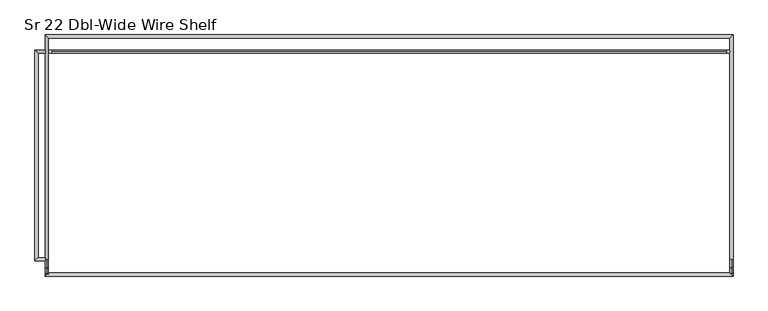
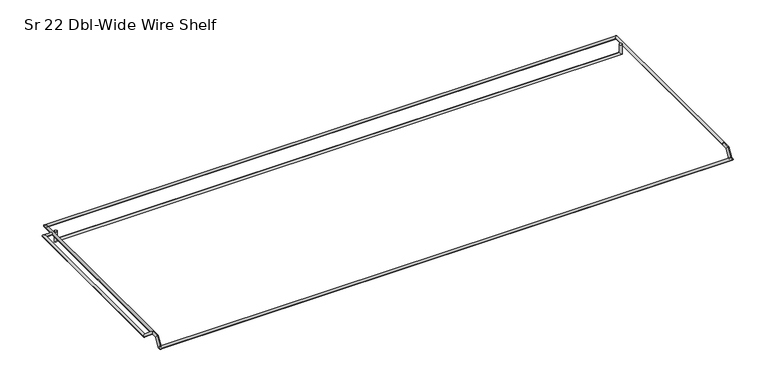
"""IFC4 building model written with IfcOpenShell, lengths in millimetres: furniture geometry, HermanMiller_Carts_CT521_CartShelf : Sr 22 Dbl-Wide Wire Shelf."""

from ifc_helpers import new_model, si_unit, frame, origin, place, context, project, spatial, circle_curve, ellipse_curve, source, transform, mapped, element, save
from ifc_brep_helpers import plane_surface, cylinder_surface, advanced_brep


def sr_22_dbl_wide_wire_shelf_4a5e91f4(model_context):
    return source(origin(), model_context, "Body", "AdvancedBrep", [
        advanced_brep(
        [(733.4732983, 136.525, 2244.7377), (738.2357983, 136.525, 2244.7377), (733.4732983, 136.525, 2229.4596), (738.2357983, 136.525, 2224.6971), (-295.1886017, 136.525, 2229.4596), (-299.9511017, 136.525, 2224.6971), (-295.1886017, 136.525, 2244.7377), (-299.9511017, 136.525, 2244.7377)],
        [
            (0, 1, circle_curve(frame((735.8545483, 136.525, 2244.7377), z_axis=(0.0, 0.0, 1.0), x_axis=(1.0, 0.0, 0.0)), 2.38125)),
            (1, 0, circle_curve(frame((735.8545483, 136.525, 2244.7377), z_axis=(0.0, 0.0, 1.0), x_axis=(1.0, 0.0, 0.0)), 2.38125)),
            (0, 2),
            (2, 3, ellipse_curve(frame((735.8545483, 136.525, 2227.07835), z_axis=(0.7071067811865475, 0.0, 0.7071067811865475), x_axis=(-0.7071067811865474, 0.0, 0.7071067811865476)), 3.367596, 2.38125)),
            (3, 1),
            (3, 2, ellipse_curve(frame((735.8545483, 136.525, 2227.07835), z_axis=(0.7071067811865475, 0.0, 0.7071067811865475), x_axis=(-0.7071067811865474, 0.0, 0.7071067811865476)), 3.367596, 2.38125)),
            (2, 4),
            (4, 5, ellipse_curve(frame((-297.5698517, 136.525, 2227.07835), z_axis=(0.7071067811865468, 0.0, -0.7071067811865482), x_axis=(0.7071067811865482, 0.0, 0.7071067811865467)), 3.367596, 2.38125)),
            (5, 3),
            (5, 4, ellipse_curve(frame((-297.5698517, 136.525, 2227.07835), z_axis=(0.7071067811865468, 0.0, -0.7071067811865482), x_axis=(0.7071067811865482, 0.0, 0.7071067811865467)), 3.367596, 2.38125)),
            (6, 7, circle_curve(frame((-297.5698517, 136.525, 2244.7377), z_axis=(0.0, 0.0, 1.0), x_axis=(-1.0, 0.0, 0.0)), 2.38125)),
            (7, 6, circle_curve(frame((-297.5698517, 136.525, 2244.7377), z_axis=(0.0, 0.0, 1.0), x_axis=(-1.0, 0.0, 0.0)), 2.38125)),
            (4, 6),
            (7, 5),
        ],
        [
            plane_surface(frame((735.8545483, 136.525, 2244.7377), z_axis=(0.0, 0.0, 1.0), x_axis=(0.0, -1.0, 0.0))),
            cylinder_surface(frame((735.8545483, 136.525, 2244.7377), z_axis=(0.0, 0.0, 1.0), x_axis=(1.0, 0.0, 0.0)), 2.38125),
            cylinder_surface(frame((735.8545483, 136.525, 2227.07835), z_axis=(1.0, 0.0, 0.0), x_axis=(0.0, 0.0, -1.0)), 2.38125),
            plane_surface(frame((-297.5698517, 136.525, 2244.7377), z_axis=(0.0, 0.0, 1.0), x_axis=(0.0, -1.0, 0.0))),
            cylinder_surface(frame((-297.5698517, 136.525, 2227.07835), z_axis=(0.0, 0.0, -1.0), x_axis=(-1.0, 0.0, 0.0)), 2.38125),
        ],
        [
            (0, [[1, 2]]),
            (1, [[-1, 3, 4, 5]]),
            (1, [[-2, -5, 6, -3]]),
            (2, [[-4, 7, 8, 9]]),
            (2, [[-6, -9, 10, -7]]),
            (3, [[11, 12]]),
            (4, [[-8, 13, -12, 14]]),
            (4, [[-10, -14, -11, -13]]),
        ],
    ),
        advanced_brep(
        [(-305.0526917, -178.26736, 2242.3501), (-305.0526917, -183.04256, 2242.3501), (-305.0526917, 133.81736, 2242.3501), (-305.0526917, 138.59256, 2242.3501), (-316.1524917, -178.26736, 2242.3501), (-320.9276917, -183.04256, 2242.3501), (-316.1524917, 133.81736, 2242.3501), (-320.9276917, 138.59256, 2242.3501)],
        [
            (0, 1, circle_curve(frame((-305.0526917, -180.65496, 2242.3501), z_axis=(1.0, 0.0, 0.0), x_axis=(0.0, -1.0, 0.0)), 2.3876)),
            (1, 0, circle_curve(frame((-305.0526917, -180.65496, 2242.3501), z_axis=(1.0, 0.0, 0.0), x_axis=(0.0, -1.0, 0.0)), 2.3876)),
            (2, 3, circle_curve(frame((-305.0526917, 136.20496, 2242.3501), z_axis=(1.0, 0.0, 0.0), x_axis=(0.0, 1.0, 0.0)), 2.3876)),
            (3, 2, circle_curve(frame((-305.0526917, 136.20496, 2242.3501), z_axis=(1.0, 0.0, 0.0), x_axis=(0.0, 1.0, 0.0)), 2.3876)),
            (0, 4),
            (4, 5, ellipse_curve(frame((-318.5400917, -180.65496, 2242.3501), z_axis=(0.7071067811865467, -0.7071067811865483, 0.0), x_axis=(0.7071067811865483, 0.7071067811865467, 0.0)), 3.3765763, 2.3876)),
            (5, 1),
            (5, 4, ellipse_curve(frame((-318.5400917, -180.65496, 2242.3501), z_axis=(0.7071067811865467, -0.7071067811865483, 0.0), x_axis=(0.7071067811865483, 0.7071067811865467, 0.0)), 3.3765763, 2.3876)),
            (4, 6),
            (6, 7, ellipse_curve(frame((-318.5400917, 136.20496, 2242.3501), z_axis=(-0.7071067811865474, -0.7071067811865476, 0.0), x_axis=(0.7071067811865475, -0.7071067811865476, 0.0)), 3.3765763, 2.3876)),
            (7, 5),
            (7, 6, ellipse_curve(frame((-318.5400917, 136.20496, 2242.3501), z_axis=(-0.7071067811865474, -0.7071067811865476, 0.0), x_axis=(0.7071067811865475, -0.7071067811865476, 0.0)), 3.3765763, 2.3876)),
            (6, 2),
            (3, 7),
        ],
        [
            plane_surface(frame((-305.0526917, -180.65496, 2242.3501), z_axis=(1.0, 0.0, 0.0), x_axis=(0.0, 0.0, 1.0))),
            plane_surface(frame((-305.0526917, 136.20496, 2242.3501), z_axis=(1.0, 0.0, 0.0), x_axis=(0.0, 0.0, 1.0))),
            cylinder_surface(frame((-305.0526917, -180.65496, 2242.3501), z_axis=(1.0, 0.0, 0.0), x_axis=(0.0, -1.0, 0.0)), 2.3876),
            cylinder_surface(frame((-318.5400917, -180.65496, 2242.3501), z_axis=(0.0, -1.0, 0.0), x_axis=(-1.0, 0.0, 0.0)), 2.3876),
            cylinder_surface(frame((-318.5400917, 136.20496, 2242.3501), z_axis=(-1.0, 0.0, 0.0), x_axis=(0.0, 1.0, 0.0)), 2.3876),
        ],
        [
            (0, [[1, 2]]),
            (1, [[3, 4]]),
            (2, [[-1, 5, 6, 7]]),
            (2, [[-2, -7, 8, -5]]),
            (3, [[-6, 9, 10, 11]]),
            (3, [[-8, -11, 12, -9]]),
            (4, [[-10, 13, -4, 14]]),
            (4, [[-12, -14, -3, -13]]),
        ],
    ),
        advanced_brep(
        [(738.5621883, -201.5998, 2227.0847), (743.3373883, -201.5998, 2227.0847), (743.3373883, -206.375, 2227.0847), (-300.2774917, -201.5998, 2227.0847), (-305.0526917, -206.375, 2227.0847), (-305.0526917, -201.5998, 2227.0847)],
        [
            (0, 1, circle_curve(frame((740.9497883, -201.5998, 2227.0847), z_axis=(0.0, 1.0, 0.0), x_axis=(1.0, 0.0, 0.0)), 2.3876)),
            (1, 0, circle_curve(frame((740.9497883, -201.5998, 2227.0847), z_axis=(0.0, 1.0, 0.0), x_axis=(1.0, 0.0, 0.0)), 2.3876)),
            (0, 2, ellipse_curve(frame((740.9497883, -203.9874, 2227.0847), z_axis=(0.7071067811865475, 0.7071067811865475, 0.0), x_axis=(-0.7071067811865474, 0.7071067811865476, 0.0)), 3.3765763, 2.3876)),
            (2, 1),
            (2, 0, ellipse_curve(frame((740.9497883, -203.9874, 2227.0847), z_axis=(0.7071067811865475, 0.7071067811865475, 0.0), x_axis=(-0.7071067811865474, 0.7071067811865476, 0.0)), 3.3765763, 2.3876)),
            (0, 3),
            (3, 4, ellipse_curve(frame((-302.6650917, -203.9874, 2227.0847), z_axis=(0.7071067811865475, -0.7071067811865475, 0.0), x_axis=(0.7071067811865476, 0.7071067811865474, 0.0)), 3.3765763, 2.3876)),
            (4, 2),
            (4, 3, ellipse_curve(frame((-302.6650917, -203.9874, 2227.0847), z_axis=(0.7071067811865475, -0.7071067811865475, 0.0), x_axis=(0.7071067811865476, 0.7071067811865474, 0.0)), 3.3765763, 2.3876)),
            (3, 5, circle_curve(frame((-302.6650917, -201.5998, 2227.0847), z_axis=(0.0, 1.0, 0.0), x_axis=(-1.0, 0.0, 0.0)), 2.3876)),
            (5, 3, circle_curve(frame((-302.6650917, -201.5998, 2227.0847), z_axis=(0.0, 1.0, 0.0), x_axis=(-1.0, 0.0, 0.0)), 2.3876)),
            (5, 4),
        ],
        [
            plane_surface(frame((740.9497883, -201.5998, 2227.0847), z_axis=(0.0, 1.0, 0.0), x_axis=(0.0, 0.0, 1.0))),
            cylinder_surface(frame((740.9497883, -201.5998, 2227.0847), z_axis=(0.0, 1.0, 0.0), x_axis=(1.0, 0.0, 0.0)), 2.3876),
            cylinder_surface(frame((740.9497883, -203.9874, 2227.0847), z_axis=(1.0, 0.0, 0.0), x_axis=(0.0, -1.0, 0.0)), 2.3876),
            plane_surface(frame((-302.6650917, -201.5998, 2227.0847), z_axis=(0.0, 1.0, 0.0), x_axis=(0.0, 0.0, 1.0))),
            cylinder_surface(frame((-302.6650917, -203.9874, 2227.0847), z_axis=(0.0, -1.0, 0.0), x_axis=(-1.0, 0.0, 0.0)), 2.3876),
        ],
        [
            (0, [[1, 2]]),
            (1, [[-1, 3, 4]]),
            (1, [[-2, -4, 5]]),
            (2, [[-3, 6, 7, 8]]),
            (2, [[-5, -8, 9, -6]]),
            (3, [[10, 11]]),
            (4, [[-7, -11, 12]]),
            (4, [[-9, -12, -10]]),
        ],
    ),
        advanced_brep(
        [(743.3373883, -180.65496, 2242.3501), (738.5621883, -180.65496, 2242.3501), (743.3373883, 161.925, 2242.3501), (738.5621883, 157.1498, 2242.3501), (-305.0526917, 161.925, 2242.3501), (-300.2774917, 157.1498, 2242.3501), (-305.0526917, -180.65496, 2242.3501), (-300.2774917, -180.65496, 2242.3501)],
        [
            (0, 1, circle_curve(frame((740.9497883, -180.65496, 2242.3501), z_axis=(0.0, -1.0, 0.0), x_axis=(-1.0, 0.0, 0.0)), 2.3876)),
            (1, 0, circle_curve(frame((740.9497883, -180.65496, 2242.3501), z_axis=(0.0, -1.0, 0.0), x_axis=(-1.0, 0.0, 0.0)), 2.3876)),
            (0, 2),
            (2, 3, ellipse_curve(frame((740.9497883, 159.5374, 2242.3501), z_axis=(0.7071067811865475, -0.7071067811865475, 0.0), x_axis=(-0.7071067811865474, -0.7071067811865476, 0.0)), 3.3765763, 2.3876)),
            (3, 1),
            (3, 2, ellipse_curve(frame((740.9497883, 159.5374, 2242.3501), z_axis=(0.7071067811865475, -0.7071067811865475, 0.0), x_axis=(-0.7071067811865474, -0.7071067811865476, 0.0)), 3.3765763, 2.3876)),
            (2, 4),
            (4, 5, ellipse_curve(frame((-302.6650917, 159.5374, 2242.3501), z_axis=(0.7071067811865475, 0.7071067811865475, 0.0), x_axis=(0.7071067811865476, -0.7071067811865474, 0.0)), 3.3765763, 2.3876)),
            (5, 3),
            (5, 4, ellipse_curve(frame((-302.6650917, 159.5374, 2242.3501), z_axis=(0.7071067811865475, 0.7071067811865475, 0.0), x_axis=(0.7071067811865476, -0.7071067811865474, 0.0)), 3.3765763, 2.3876)),
            (6, 7, circle_curve(frame((-302.6650917, -180.65496, 2242.3501), z_axis=(0.0, -1.0, 0.0), x_axis=(1.0, 0.0, 0.0)), 2.3876)),
            (7, 6, circle_curve(frame((-302.6650917, -180.65496, 2242.3501), z_axis=(0.0, -1.0, 0.0), x_axis=(1.0, 0.0, 0.0)), 2.3876)),
            (4, 6),
            (7, 5),
        ],
        [
            plane_surface(frame((740.9497883, -180.65496, 2242.3501), z_axis=(0.0, -1.0, 0.0), x_axis=(0.0, 0.0, 1.0))),
            cylinder_surface(frame((740.9497883, -180.65496, 2242.3501), z_axis=(0.0, -1.0, 0.0), x_axis=(-1.0, 0.0, 0.0)), 2.3876),
            cylinder_surface(frame((740.9497883, 159.5374, 2242.3501), z_axis=(1.0, 0.0, 0.0), x_axis=(0.0, -1.0, 0.0)), 2.3876),
            plane_surface(frame((-302.6650917, -180.65496, 2242.3501), z_axis=(0.0, -1.0, 0.0), x_axis=(0.0, 0.0, 1.0))),
            cylinder_surface(frame((-302.6650917, 159.5374, 2242.3501), z_axis=(0.0, 1.0, 0.0), x_axis=(1.0, 0.0, 0.0)), 2.3876),
        ],
        [
            (0, [[1, 2]]),
            (1, [[-1, 3, 4, 5]]),
            (1, [[-2, -5, 6, -3]]),
            (2, [[-4, 7, 8, 9]]),
            (2, [[-6, -9, 10, -7]]),
            (3, [[11, 12]]),
            (4, [[-8, 13, -12, 14]]),
            (4, [[-10, -14, -11, -13]]),
        ],
    ),
        advanced_brep(
        [(740.9497883, -180.65496, 2244.7377), (740.9497883, -180.65496, 2239.9625), (740.9497883, -191.442659, 2239.9625), (740.9497883, -194.205541, 2244.7377), (740.9497883, -200.218359, 2224.6971), (740.9497883, -202.981241, 2229.4723), (740.9497883, -203.9874, 2229.4723), (740.9497883, -203.9874, 2224.6971)],
        [
            (0, 1, circle_curve(frame((740.9497883, -180.65496, 2242.3501), z_axis=(0.0, 1.0, 0.0), x_axis=(0.0, 0.0, -1.0)), 2.3876)),
            (1, 0, circle_curve(frame((740.9497883, -180.65496, 2242.3501), z_axis=(0.0, 1.0, 0.0), x_axis=(0.0, 0.0, -1.0)), 2.3876)),
            (1, 2),
            (2, 3, ellipse_curve(frame((740.9497883, -192.8241, 2242.3501), z_axis=(0.0, 0.8655604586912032, 0.500804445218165), x_axis=(0.0, 0.5008044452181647, -0.8655604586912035)), 2.7584439, 2.3876)),
            (3, 0),
            (3, 2, ellipse_curve(frame((740.9497883, -192.8241, 2242.3501), z_axis=(0.0, 0.8655604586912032, 0.500804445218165), x_axis=(0.0, 0.5008044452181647, -0.8655604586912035)), 2.7584439, 2.3876)),
            (2, 4),
            (4, 5, ellipse_curve(frame((740.9497883, -201.5998, 2227.0847), z_axis=(0.0, 0.8655604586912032, 0.500804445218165), x_axis=(0.0, -0.5008044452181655, 0.8655604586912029)), 2.7584439, 2.3876)),
            (5, 3),
            (5, 4, ellipse_curve(frame((740.9497883, -201.5998, 2227.0847), z_axis=(0.0, 0.8655604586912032, 0.500804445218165), x_axis=(0.0, -0.5008044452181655, 0.8655604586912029)), 2.7584439, 2.3876)),
            (6, 7, circle_curve(frame((740.9497883, -203.9874, 2227.0847), z_axis=(0.0, -1.0, 0.0), x_axis=(0.0, 0.0, -1.0)), 2.3876)),
            (7, 6, circle_curve(frame((740.9497883, -203.9874, 2227.0847), z_axis=(0.0, -1.0, 0.0), x_axis=(0.0, 0.0, -1.0)), 2.3876)),
            (4, 7),
            (6, 5),
        ],
        [
            plane_surface(frame((740.9497883, -180.65496, 2242.3501), z_axis=(0.0, 1.0, 0.0), x_axis=(1.0, 0.0, 0.0))),
            cylinder_surface(frame((740.9497883, -180.65496, 2242.3501), z_axis=(0.0, 1.0, 0.0), x_axis=(0.0, 0.0, -1.0)), 2.3876),
            cylinder_surface(frame((740.9497883, -192.8241, 2242.3501), z_axis=(0.0, 0.49838981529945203, 0.8669530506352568), x_axis=(0.0, 0.8669530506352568, -0.49838981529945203)), 2.3876),
            plane_surface(frame((740.9497883, -203.9874, 2227.0847), z_axis=(0.0, -1.0, 0.0), x_axis=(1.0, 0.0, 0.0))),
            cylinder_surface(frame((740.9497883, -201.5998, 2227.0847), z_axis=(0.0, 1.0, 0.0), x_axis=(0.0, 0.0, -1.0)), 2.3876),
        ],
        [
            (0, [[1, 2]]),
            (1, [[-2, 3, 4, 5]]),
            (1, [[-1, -5, 6, -3]]),
            (2, [[-4, 7, 8, 9]]),
            (2, [[-6, -9, 10, -7]]),
            (3, [[11, 12]]),
            (4, [[-8, 13, -11, 14]]),
            (4, [[-10, -14, -12, -13]]),
        ],
    ),
        advanced_brep(
        [(-302.6650917, -180.65496, 2239.9625), (-302.6650917, -180.65496, 2244.7377), (-302.6650917, -191.442659, 2239.9625), (-302.6650917, -194.205541, 2244.7377), (-302.6650917, -200.218359, 2224.6971), (-302.6650917, -202.981241, 2229.4723), (-302.6650917, -203.9874, 2224.6971), (-302.6650917, -203.9874, 2229.4723)],
        [
            (0, 1, circle_curve(frame((-302.6650917, -180.65496, 2242.3501), z_axis=(0.0, 1.0, 0.0), x_axis=(0.0, 0.0, 1.0)), 2.3876)),
            (1, 0, circle_curve(frame((-302.6650917, -180.65496, 2242.3501), z_axis=(0.0, 1.0, 0.0), x_axis=(0.0, 0.0, 1.0)), 2.3876)),
            (0, 2),
            (2, 3, ellipse_curve(frame((-302.6650917, -192.8241, 2242.3501), z_axis=(0.0, 0.865560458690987, 0.5008044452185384), x_axis=(0.0, 0.5008044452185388, -0.8655604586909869)), 2.7584439, 2.3876)),
            (3, 1),
            (3, 2, ellipse_curve(frame((-302.6650917, -192.8241, 2242.3501), z_axis=(0.0, 0.865560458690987, 0.5008044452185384), x_axis=(0.0, 0.5008044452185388, -0.8655604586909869)), 2.7584439, 2.3876)),
            (2, 4),
            (4, 5, ellipse_curve(frame((-302.6650917, -201.5998, 2227.0847), z_axis=(0.0, 0.865560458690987, 0.5008044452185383), x_axis=(0.0, -0.500804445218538, 0.8655604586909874)), 2.7584439, 2.3876)),
            (5, 3),
            (5, 4, ellipse_curve(frame((-302.6650917, -201.5998, 2227.0847), z_axis=(0.0, 0.865560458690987, 0.5008044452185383), x_axis=(0.0, -0.500804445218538, 0.8655604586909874)), 2.7584439, 2.3876)),
            (6, 7, circle_curve(frame((-302.6650917, -203.9874, 2227.0847), z_axis=(0.0, -1.0, 0.0), x_axis=(0.0, 0.0, 1.0)), 2.3876)),
            (7, 6, circle_curve(frame((-302.6650917, -203.9874, 2227.0847), z_axis=(0.0, -1.0, 0.0), x_axis=(0.0, 0.0, 1.0)), 2.3876)),
            (4, 6),
            (7, 5),
        ],
        [
            plane_surface(frame((-302.6650917, -180.65496, 2242.3501), z_axis=(0.0, 1.0, 0.0), x_axis=(-1.0, 0.0, 0.0))),
            cylinder_surface(frame((-302.6650917, -180.65496, 2242.3501), z_axis=(0.0, 1.0, 0.0), x_axis=(0.0, 0.0, 1.0)), 2.3876),
            cylinder_surface(frame((-302.6650917, -192.8241, 2242.3501), z_axis=(0.0, 0.49838981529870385, 0.8669530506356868), x_axis=(0.0, -0.8669530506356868, 0.49838981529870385)), 2.3876),
            plane_surface(frame((-302.6650917, -203.9874, 2227.0847), z_axis=(0.0, -1.0, 0.0), x_axis=(-1.0, 0.0, 0.0))),
            cylinder_surface(frame((-302.6650917, -201.5998, 2227.0847), z_axis=(0.0, 1.0, 0.0), x_axis=(0.0, 0.0, 1.0)), 2.3876),
        ],
        [
            (0, [[1, 2]]),
            (1, [[-1, 3, 4, 5]]),
            (1, [[-2, -5, 6, -3]]),
            (2, [[-4, 7, 8, 9]]),
            (2, [[-6, -9, 10, -7]]),
            (3, [[11, 12]]),
            (4, [[-8, 13, -12, 14]]),
            (4, [[-10, -14, -11, -13]]),
        ],
    ),
    ])


if __name__ == "__main__":
    model = new_model("IFC4")
    model_context = context("Model", 3, world=origin())
    ifc_project = project(units=[si_unit("LENGTHUNIT", "METRE", prefix="MILLI")], contexts=[model_context])
    site = spatial("IfcSite", under=ifc_project)
    building = spatial("IfcBuilding", under=site)
    placement = place(None, origin())
    sr_22_dbl_wide_wire_shelf_shape = sr_22_dbl_wide_wire_shelf_4a5e91f4(model_context)
    element("IfcFurniture", 1, ObjectType="HermanMiller_Carts_CT521_CartShelf : Sr 22 Dbl-Wide Wire Shelf", at=placement, inside=building, context=model_context, shape_type="MappedRepresentation", body=[
        mapped(sr_22_dbl_wide_wire_shelf_shape, transform((0.0, 0.0, 0.0), x_axis=(1.0, 0.0, 0.0), y_axis=(0.0, 1.0, 0.0), z_axis=(0.0, 0.0, 1.0))),
    ])
    save(model, "model.ifc")
